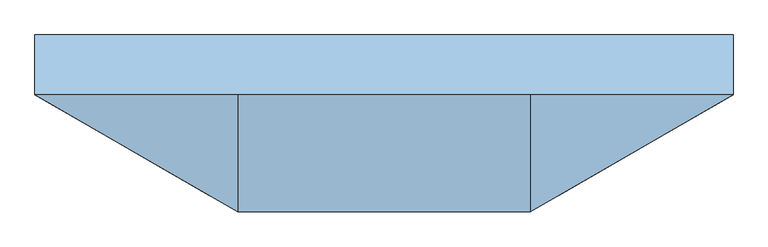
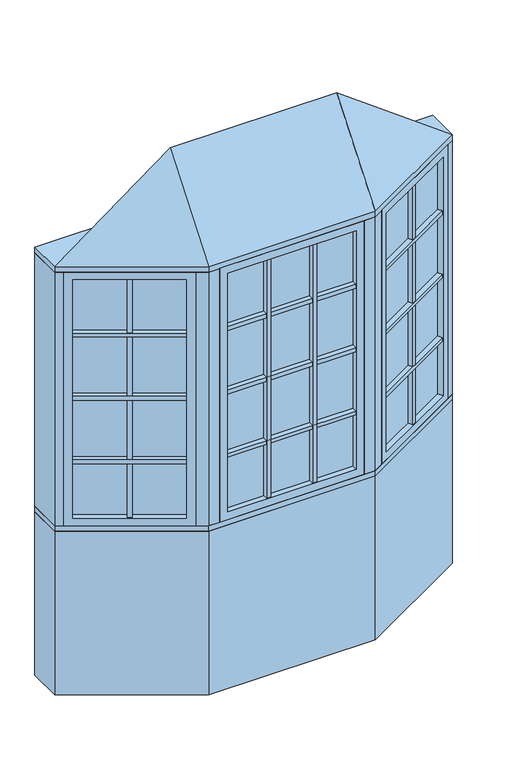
"""IFC4 building model written with IfcOpenShell, lengths in millimetres: window geometry, Pollard_Windows_Tudor Casement Bows and Bays : AML-BAY 30 AFR0512-08-500_GC."""

from ifc_helpers import new_model, si_unit, frame, origin, origin_with_axes, place, context, project, spatial, polyline, outline, extrude, faceted_brep, source, transform, mapped, element, save


def window_1d02490c(model_context):
    return source(origin(), model_context, "Body", "SolidModel", [
        extrude(outline(polyline([(445.7305346, -327.3537343), (434.7305346, -308.3011754), (815.6135794, -88.3982469), (826.6135794, -107.4508058), (445.7305346, -327.3537343)])), frame((0.0, 0.0, 1390.998), z_axis=(0.0, 0.0, 1.0), x_axis=(1.0, 0.0, 0.0)), (0.0, 0.0, 1.0), 18.0),
        extrude(outline(polyline([(432.1905346, -303.9017664), (421.1905346, -284.8492075), (802.0735794, -64.946279), (813.0735794, -83.9988379), (432.1905346, -303.9017664)])), frame((0.0, 0.0, 1390.998), z_axis=(0.0, 0.0, 1.0), x_axis=(1.0, 0.0, 0.0)), (0.0, 0.0, 1.0), 18.0),
        extrude(outline(polyline([(445.7305346, -327.3537343), (434.7305346, -308.3011754), (815.6135794, -88.3982469), (826.6135794, -107.4508058), (445.7305346, -327.3537343)])), frame((0.0, 0.0, 1090.998), z_axis=(0.0, 0.0, 1.0), x_axis=(1.0, 0.0, 0.0)), (0.0, 0.0, 1.0), 18.0),
        extrude(outline(polyline([(432.1905346, -303.9017664), (421.1905346, -284.8492075), (802.0735794, -64.946279), (813.0735794, -83.9988379), (432.1905346, -303.9017664)])), frame((0.0, 0.0, 1090.998), z_axis=(0.0, 0.0, 1.0), x_axis=(1.0, 0.0, 0.0)), (0.0, 0.0, 1.0), 18.0),
        extrude(outline(polyline([(445.7305346, -327.3537343), (434.7305346, -308.3011754), (815.6135794, -88.3982469), (826.6135794, -107.4508058), (445.7305346, -327.3537343)])), frame((0.0, 0.0, 1390.998), z_axis=(0.0, 0.0, 1.0), x_axis=(1.0, 0.0, 0.0)), (0.0, 0.0, 1.0), 18.0),
        extrude(outline(polyline([(432.1905346, -303.9017664), (421.1905346, -284.8492075), (802.0735794, -64.946279), (813.0735794, -83.9988379), (432.1905346, -303.9017664)])), frame((0.0, 0.0, 1390.998), z_axis=(0.0, 0.0, 1.0), x_axis=(1.0, 0.0, 0.0)), (0.0, 0.0, 1.0), 18.0),
        extrude(outline(polyline([(445.7305346, -327.3537343), (434.7305346, -308.3011754), (815.6135794, -88.3982469), (826.6135794, -107.4508058), (445.7305346, -327.3537343)])), frame((0.0, 0.0, 1390.998), z_axis=(0.0, 0.0, 1.0), x_axis=(1.0, 0.0, 0.0)), (0.0, 0.0, 1.0), 18.0),
        extrude(outline(polyline([(432.1905346, -303.9017664), (421.1905346, -284.8492075), (802.0735794, -64.946279), (813.0735794, -83.9988379), (432.1905346, -303.9017664)])), frame((0.0, 0.0, 1390.998), z_axis=(0.0, 0.0, 1.0), x_axis=(1.0, 0.0, 0.0)), (0.0, 0.0, 1.0), 18.0),
        extrude(outline(polyline([(445.7305346, -327.3537343), (434.7305346, -308.3011754), (815.6135794, -88.3982469), (826.6135794, -107.4508058), (445.7305346, -327.3537343)])), frame((0.0, 0.0, 1690.998), z_axis=(0.0, 0.0, 1.0), x_axis=(1.0, 0.0, 0.0)), (0.0, 0.0, 1.0), 18.0),
        extrude(outline(polyline([(432.1905346, -303.9017664), (421.1905346, -284.8492075), (802.0735794, -64.946279), (813.0735794, -83.9988379), (432.1905346, -303.9017664)])), frame((0.0, 0.0, 1690.998), z_axis=(0.0, 0.0, 1.0), x_axis=(1.0, 0.0, 0.0)), (0.0, 0.0, 1.0), 18.0),
        extrude(outline(polyline([(632.9662856, -193.8497112), (643.9662856, -212.9022701), (628.3778284, -221.9022701), (617.3778284, -202.8497112), (632.9662856, -193.8497112)])), frame((0.0, 0.0, 835.8628), z_axis=(0.0, 0.0, 1.0), x_axis=(1.0, 0.0, 0.0)), (0.0, 0.0, 1.0), 1128.2704),
        extrude(outline(polyline([(630.4262856, -189.4503021), (614.8378284, -198.4503021), (603.8378284, -179.3977432), (619.4262856, -170.3977432), (630.4262856, -189.4503021)])), frame((0.0, 0.0, 835.8628), z_axis=(0.0, 0.0, 1.0), x_axis=(1.0, 0.0, 0.0)), (0.0, 0.0, 1.0), 1128.2704),
        extrude(outline(polyline([(826.612102, -82.0482469), (423.7320119, -314.6511754), (421.1920119, -310.2517664), (824.072102, -77.6488379), (826.612102, -82.0482469)])), frame((0.0, 0.0, 823.1628), z_axis=(0.0, 0.0, 1.0), x_axis=(1.0, 0.0, 0.0)), (0.0, 0.0, 1.0), 1153.6704),
        faceted_brep([(815.6135794, -88.3982469, 835.8628), (828.3135794, -110.3952922, 835.8628), (828.3135794, -110.3952922, 1964.1332), (815.6135794, -88.3982469, 1964.1332), (824.072102, -77.6488379, 823.1628), (826.612102, -82.0482469, 823.1628), (826.612102, -82.0482469, 1976.8332), (824.072102, -77.6488379, 1976.8332), (800.3735794, -62.0017926, 835.8628), (813.0735794, -83.9988379, 835.8628), (813.0735794, -83.9988379, 1964.1332), (800.3735794, -62.0017926, 1964.1332), (859.3734073, -92.4628922, 799.998), (831.4334073, -44.0693926, 799.998), (831.4334073, -44.0693926, 1999.998), (859.3734073, -92.4628922, 1999.998), (447.4305346, -330.2982207, 1964.1332), (434.7305346, -308.3011754, 1964.1332), (423.7320119, -314.6511754, 1976.8332), (421.1920119, -310.2517664, 1976.8332), (432.1905346, -303.9017664, 1964.1332), (419.4905346, -281.9047211, 1964.1332), (388.4307067, -299.8371211, 1999.998), (416.3707067, -348.2306207, 1999.998), (447.4305346, -330.2982207, 835.8628), (434.7305346, -308.3011754, 835.8628), (423.7320119, -314.6511754, 823.1628), (421.1920119, -310.2517664, 823.1628), (432.1905346, -303.9017664, 835.8628), (419.4905346, -281.9047211, 835.8628), (388.4307067, -299.8371211, 799.998), (416.3707067, -348.2306207, 799.998)], [[[0, 1, 2, 3]], [[4, 5, 6, 7]], [[8, 9, 10, 11]], [[12, 13, 14, 15]], [[3, 2, 16, 17]], [[7, 6, 18, 19]], [[11, 10, 20, 21]], [[15, 14, 22, 23]], [[17, 16, 24, 25]], [[19, 18, 26, 27]], [[21, 20, 28, 29]], [[23, 22, 30, 31]], [[25, 24, 1, 0]], [[5, 26, 18, 6], [3, 17, 25, 0]], [[27, 26, 5, 4]], [[7, 19, 27, 4], [9, 28, 20, 10]], [[29, 28, 9, 8]], [[13, 30, 22, 14], [11, 21, 29, 8]], [[31, 30, 13, 12]], [[15, 23, 31, 12], [1, 24, 16, 2]]]),
        extrude(outline(polyline([(111.9683455, -347.8306207), (111.9683455, -369.8306207), (93.9683455, -369.8306207), (93.9683455, -347.8306207), (111.9683455, -347.8306207)])), frame((0.0, 0.0, 835.8628), z_axis=(0.0, 0.0, 1.0), x_axis=(1.0, 0.0, 0.0)), (0.0, 0.0, 1.0), 1128.2704),
        extrude(outline(polyline([(111.9683455, -342.7506207), (93.9683455, -342.7506207), (93.9683455, -320.7506207), (111.9683455, -320.7506207), (111.9683455, -342.7506207)])), frame((0.0, 0.0, 835.8628), z_axis=(0.0, 0.0, 1.0), x_axis=(1.0, 0.0, 0.0)), (0.0, 0.0, 1.0), 1128.2704),
        extrude(outline(polyline([(-93.9683455, -347.8306207), (-93.9683455, -369.8306207), (-111.9683455, -369.8306207), (-111.9683455, -347.8306207), (-93.9683455, -347.8306207)])), frame((0.0, 0.0, 835.8628), z_axis=(0.0, 0.0, 1.0), x_axis=(1.0, 0.0, 0.0)), (0.0, 0.0, 1.0), 1128.2704),
        extrude(outline(polyline([(-93.9683455, -342.7506207), (-111.9683455, -342.7506207), (-111.9683455, -320.7506207), (-93.9683455, -320.7506207), (-93.9683455, -342.7506207)])), frame((0.0, 0.0, 835.8628), z_axis=(0.0, 0.0, 1.0), x_axis=(1.0, 0.0, 0.0)), (0.0, 0.0, 1.0), 1128.2704),
        extrude(outline(polyline([(-287.2046365, -369.8306207), (-287.2046365, -347.8306207), (287.2046365, -347.8306207), (287.2046365, -369.8306207), (-287.2046365, -369.8306207)])), frame((0.0, 0.0, 1090.998), z_axis=(0.0, 0.0, 1.0), x_axis=(1.0, 0.0, 0.0)), (0.0, 0.0, 1.0), 18.0),
        extrude(outline(polyline([(-287.2046365, -342.7506207), (-287.2046365, -320.7506207), (287.2046365, -320.7506207), (287.2046365, -342.7506207), (-287.2046365, -342.7506207)])), frame((0.0, 0.0, 1090.998), z_axis=(0.0, 0.0, 1.0), x_axis=(1.0, 0.0, 0.0)), (0.0, 0.0, 1.0), 18.0),
        extrude(outline(polyline([(-287.2046365, -369.8306207), (-287.2046365, -347.8306207), (287.2046365, -347.8306207), (287.2046365, -369.8306207), (-287.2046365, -369.8306207)])), frame((0.0, 0.0, 1390.998), z_axis=(0.0, 0.0, 1.0), x_axis=(1.0, 0.0, 0.0)), (0.0, 0.0, 1.0), 18.0),
        extrude(outline(polyline([(-287.2046365, -342.7506207), (-287.2046365, -320.7506207), (287.2046365, -320.7506207), (287.2046365, -342.7506207), (-287.2046365, -342.7506207)])), frame((0.0, 0.0, 1390.998), z_axis=(0.0, 0.0, 1.0), x_axis=(1.0, 0.0, 0.0)), (0.0, 0.0, 1.0), 18.0),
        extrude(outline(polyline([(-287.2046365, -369.8306207), (-287.2046365, -347.8306207), (287.2046365, -347.8306207), (287.2046365, -369.8306207), (-287.2046365, -369.8306207)])), frame((0.0, 0.0, 1390.998), z_axis=(0.0, 0.0, 1.0), x_axis=(1.0, 0.0, 0.0)), (0.0, 0.0, 1.0), 18.0),
        extrude(outline(polyline([(-287.2046365, -342.7506207), (-287.2046365, -320.7506207), (287.2046365, -320.7506207), (287.2046365, -342.7506207), (-287.2046365, -342.7506207)])), frame((0.0, 0.0, 1390.998), z_axis=(0.0, 0.0, 1.0), x_axis=(1.0, 0.0, 0.0)), (0.0, 0.0, 1.0), 18.0),
        extrude(outline(polyline([(-287.2046365, -369.8306207), (-287.2046365, -347.8306207), (287.2046365, -347.8306207), (287.2046365, -369.8306207), (-287.2046365, -369.8306207)])), frame((0.0, 0.0, 1390.998), z_axis=(0.0, 0.0, 1.0), x_axis=(1.0, 0.0, 0.0)), (0.0, 0.0, 1.0), 18.0),
        extrude(outline(polyline([(-287.2046365, -342.7506207), (-287.2046365, -320.7506207), (287.2046365, -320.7506207), (287.2046365, -342.7506207), (-287.2046365, -342.7506207)])), frame((0.0, 0.0, 1390.998), z_axis=(0.0, 0.0, 1.0), x_axis=(1.0, 0.0, 0.0)), (0.0, 0.0, 1.0), 18.0),
        extrude(outline(polyline([(-826.6135794, -107.4508058), (-815.6135794, -88.3982469), (-434.7305346, -308.3011754), (-445.7305346, -327.3537343), (-826.6135794, -107.4508058)])), frame((0.0, 0.0, 1090.998), z_axis=(0.0, 0.0, 1.0), x_axis=(1.0, 0.0, 0.0)), (0.0, 0.0, 1.0), 18.0),
        extrude(outline(polyline([(-813.0735794, -83.9988379), (-802.0735794, -64.946279), (-421.1905346, -284.8492075), (-432.1905346, -303.9017664), (-813.0735794, -83.9988379)])), frame((0.0, 0.0, 1090.998), z_axis=(0.0, 0.0, 1.0), x_axis=(1.0, 0.0, 0.0)), (0.0, 0.0, 1.0), 18.0),
        extrude(outline(polyline([(-826.6135794, -107.4508058), (-815.6135794, -88.3982469), (-434.7305346, -308.3011754), (-445.7305346, -327.3537343), (-826.6135794, -107.4508058)])), frame((0.0, 0.0, 1390.998), z_axis=(0.0, 0.0, 1.0), x_axis=(1.0, 0.0, 0.0)), (0.0, 0.0, 1.0), 18.0),
        extrude(outline(polyline([(-813.0735794, -83.9988379), (-802.0735794, -64.946279), (-421.1905346, -284.8492075), (-432.1905346, -303.9017664), (-813.0735794, -83.9988379)])), frame((0.0, 0.0, 1390.998), z_axis=(0.0, 0.0, 1.0), x_axis=(1.0, 0.0, 0.0)), (0.0, 0.0, 1.0), 18.0),
        extrude(outline(polyline([(-826.6135794, -107.4508058), (-815.6135794, -88.3982469), (-434.7305346, -308.3011754), (-445.7305346, -327.3537343), (-826.6135794, -107.4508058)])), frame((0.0, 0.0, 1390.998), z_axis=(0.0, 0.0, 1.0), x_axis=(1.0, 0.0, 0.0)), (0.0, 0.0, 1.0), 18.0),
        extrude(outline(polyline([(-813.0735794, -83.9988379), (-802.0735794, -64.946279), (-421.1905346, -284.8492075), (-432.1905346, -303.9017664), (-813.0735794, -83.9988379)])), frame((0.0, 0.0, 1390.998), z_axis=(0.0, 0.0, 1.0), x_axis=(1.0, 0.0, 0.0)), (0.0, 0.0, 1.0), 18.0),
        extrude(outline(polyline([(-826.6135794, -107.4508058), (-815.6135794, -88.3982469), (-434.7305346, -308.3011754), (-445.7305346, -327.3537343), (-826.6135794, -107.4508058)])), frame((0.0, 0.0, 1390.998), z_axis=(0.0, 0.0, 1.0), x_axis=(1.0, 0.0, 0.0)), (0.0, 0.0, 1.0), 18.0),
        extrude(outline(polyline([(-813.0735794, -83.9988379), (-802.0735794, -64.946279), (-421.1905346, -284.8492075), (-432.1905346, -303.9017664), (-813.0735794, -83.9988379)])), frame((0.0, 0.0, 1390.998), z_axis=(0.0, 0.0, 1.0), x_axis=(1.0, 0.0, 0.0)), (0.0, 0.0, 1.0), 18.0),
        extrude(outline(polyline([(-826.6135794, -107.4508058), (-815.6135794, -88.3982469), (-434.7305346, -308.3011754), (-445.7305346, -327.3537343), (-826.6135794, -107.4508058)])), frame((0.0, 0.0, 1690.998), z_axis=(0.0, 0.0, 1.0), x_axis=(1.0, 0.0, 0.0)), (0.0, 0.0, 1.0), 18.0),
        extrude(outline(polyline([(-813.0735794, -83.9988379), (-802.0735794, -64.946279), (-421.1905346, -284.8492075), (-432.1905346, -303.9017664), (-813.0735794, -83.9988379)])), frame((0.0, 0.0, 1690.998), z_axis=(0.0, 0.0, 1.0), x_axis=(1.0, 0.0, 0.0)), (0.0, 0.0, 1.0), 18.0),
        extrude(outline(polyline([(-287.2046365, -369.8306207), (-287.2046365, -347.8306207), (287.2046365, -347.8306207), (287.2046365, -369.8306207), (-287.2046365, -369.8306207)])), frame((0.0, 0.0, 1690.998), z_axis=(0.0, 0.0, 1.0), x_axis=(1.0, 0.0, 0.0)), (0.0, 0.0, 1.0), 18.0),
        extrude(outline(polyline([(-287.2046365, -342.7506207), (-287.2046365, -320.7506207), (287.2046365, -320.7506207), (287.2046365, -342.7506207), (-287.2046365, -342.7506207)])), frame((0.0, 0.0, 1690.998), z_axis=(0.0, 0.0, 1.0), x_axis=(1.0, 0.0, 0.0)), (0.0, 0.0, 1.0), 18.0),
        extrude(outline(polyline([(-617.3778284, -202.8497112), (-628.3778284, -221.9022701), (-643.9662856, -212.9022701), (-632.9662856, -193.8497112), (-617.3778284, -202.8497112)])), frame((0.0, 0.0, 835.8628), z_axis=(0.0, 0.0, 1.0), x_axis=(1.0, 0.0, 0.0)), (0.0, 0.0, 1.0), 1128.2704),
        extrude(outline(polyline([(-614.8378284, -198.4503021), (-630.4262856, -189.4503021), (-619.4262856, -170.3977432), (-603.8378284, -179.3977432), (-614.8378284, -198.4503021)])), frame((0.0, 0.0, 835.8628), z_axis=(0.0, 0.0, 1.0), x_axis=(1.0, 0.0, 0.0)), (0.0, 0.0, 1.0), 1128.2704),
        extrude(outline(polyline([(-423.7320119, -314.6511754), (-826.612102, -82.0482469), (-824.072102, -77.6488379), (-421.1920119, -310.2517664), (-423.7320119, -314.6511754)])), frame((0.0, 0.0, 823.1628), z_axis=(0.0, 0.0, 1.0), x_axis=(1.0, 0.0, 0.0)), (0.0, 0.0, 1.0), 1153.6704),
        faceted_brep([(-432.1905346, -303.9017664, 1964.1332), (-419.4905346, -281.9047211, 1964.1332), (-419.4905346, -281.9047211, 835.8628), (-432.1905346, -303.9017664, 835.8628), (-423.7320119, -314.6511754, 1976.8332), (-421.1920119, -310.2517664, 1976.8332), (-421.1920119, -310.2517664, 823.1628), (-423.7320119, -314.6511754, 823.1628), (-447.4305346, -330.2982207, 1964.1332), (-434.7305346, -308.3011754, 1964.1332), (-434.7305346, -308.3011754, 835.8628), (-447.4305346, -330.2982207, 835.8628), (-388.4307067, -299.8371211, 1999.998), (-416.3707067, -348.2306207, 1999.998), (-416.3707067, -348.2306207, 799.998), (-388.4307067, -299.8371211, 799.998), (-800.3735794, -62.0017926, 835.8628), (-813.0735794, -83.9988379, 835.8628), (-824.072102, -77.6488379, 823.1628), (-826.612102, -82.0482469, 823.1628), (-815.6135794, -88.3982469, 835.8628), (-828.3135794, -110.3952922, 835.8628), (-859.3734073, -92.4628922, 799.998), (-831.4334073, -44.0693926, 799.998), (-800.3735794, -62.0017926, 1964.1332), (-813.0735794, -83.9988379, 1964.1332), (-824.072102, -77.6488379, 1976.8332), (-826.612102, -82.0482469, 1976.8332), (-815.6135794, -88.3982469, 1964.1332), (-828.3135794, -110.3952922, 1964.1332), (-859.3734073, -92.4628922, 1999.998), (-831.4334073, -44.0693926, 1999.998)], [[[0, 1, 2, 3]], [[4, 5, 6, 7]], [[8, 9, 10, 11]], [[12, 13, 14, 15]], [[3, 2, 16, 17]], [[7, 6, 18, 19]], [[11, 10, 20, 21]], [[15, 14, 22, 23]], [[17, 16, 24, 25]], [[19, 18, 26, 27]], [[21, 20, 28, 29]], [[23, 22, 30, 31]], [[15, 23, 31, 12], [1, 24, 16, 2]], [[25, 24, 1, 0]], [[5, 26, 18, 6], [3, 17, 25, 0]], [[27, 26, 5, 4]], [[7, 19, 27, 4], [9, 28, 20, 10]], [[29, 28, 9, 8]], [[13, 30, 22, 14], [11, 21, 29, 8]], [[31, 30, 13, 12]]]),
        extrude(outline(polyline([(299.9046365, -347.8306207), (-299.9046365, -347.8306207), (-299.9046365, -342.7506207), (299.9046365, -342.7506207), (299.9046365, -347.8306207)])), frame((0.0, 0.0, 823.1628), z_axis=(0.0, 0.0, 1.0), x_axis=(1.0, 0.0, 0.0)), (0.0, 0.0, 1.0), 1153.6704),
        faceted_brep([(287.2046365, -347.8306207, 835.8628), (287.2046365, -373.2306207, 835.8628), (287.2046365, -373.2306207, 1964.1332), (287.2046365, -347.8306207, 1964.1332), (299.9046365, -342.7506207, 823.1628), (299.9046365, -347.8306207, 823.1628), (299.9046365, -347.8306207, 1976.8332), (299.9046365, -342.7506207, 1976.8332), (287.2046365, -317.3506207, 835.8628), (287.2046365, -342.7506207, 835.8628), (287.2046365, -342.7506207, 1964.1332), (287.2046365, -317.3506207, 1964.1332), (323.0694365, -373.2306207, 799.998), (323.0694365, -317.3506207, 799.998), (323.0694365, -317.3506207, 1999.998), (323.0694365, -373.2306207, 1999.998), (-287.2046365, -373.2306207, 1964.1332), (-287.2046365, -347.8306207, 1964.1332), (-299.9046365, -347.8306207, 1976.8332), (-299.9046365, -342.7506207, 1976.8332), (-287.2046365, -342.7506207, 1964.1332), (-287.2046365, -317.3506207, 1964.1332), (-323.0694365, -317.3506207, 1999.998), (-323.0694365, -373.2306207, 1999.998), (-287.2046365, -373.2306207, 835.8628), (-287.2046365, -347.8306207, 835.8628), (-299.9046365, -347.8306207, 823.1628), (-299.9046365, -342.7506207, 823.1628), (-287.2046365, -342.7506207, 835.8628), (-287.2046365, -317.3506207, 835.8628), (-323.0694365, -317.3506207, 799.998), (-323.0694365, -373.2306207, 799.998)], [[[0, 1, 2, 3]], [[4, 5, 6, 7]], [[8, 9, 10, 11]], [[12, 13, 14, 15]], [[3, 2, 16, 17]], [[7, 6, 18, 19]], [[11, 10, 20, 21]], [[15, 14, 22, 23]], [[17, 16, 24, 25]], [[19, 18, 26, 27]], [[21, 20, 28, 29]], [[23, 22, 30, 31]], [[15, 23, 31, 12], [1, 24, 16, 2]], [[25, 24, 1, 0]], [[5, 26, 18, 6], [3, 17, 25, 0]], [[27, 26, 5, 4]], [[7, 19, 27, 4], [9, 28, 20, 10]], [[29, 28, 9, 8]], [[13, 30, 22, 14], [11, 21, 29, 8]], [[31, 30, 13, 12]]]),
        faceted_brep([(890.0, -74.7806207, 2025.398), (373.0694365, -373.2306207, 2025.398), (-373.0694365, -373.2306207, 2025.398), (-890.0, -74.7806207, 2025.398), (-373.0694365, -74.7806207, 2406.398), (373.0694365, -74.7806207, 2406.398)], [[[0, 1, 2, 3]], [[3, 2, 4]], [[2, 1, 5, 4]], [[1, 0, 5]], [[0, 3, 4, 5]]]),
        extrude(outline(polyline([(-890.0, 77.6193793), (890.0, 77.6193793), (890.0, -74.7806207), (373.0694365, -373.2306207), (-373.0694365, -373.2306207), (-890.0, -74.7806207), (-890.0, 77.6193793)])), frame((0.0, 0.0, 1999.998), z_axis=(0.0, 0.0, 1.0), x_axis=(1.0, 0.0, 0.0)), (0.0, 0.0, 1.0), 25.4),
        extrude(outline(polyline([(-890.0, -74.7806207), (-890.0, 77.6193793), (-849.1645431, 77.6193793), (-849.1645431, -74.7806207), (-859.3734073, -92.4628922), (-890.0, -74.7806207)])), frame((0.0, 0.0, 799.998), z_axis=(0.0, 0.0, 1.0), x_axis=(1.0, 0.0, 0.0)), (0.0, 0.0, 1.0), 1200.0),
        extrude(outline(polyline([(890.0, 77.6193793), (890.0, -74.7806207), (859.3734073, -92.4628922), (849.1645431, -74.7806207), (849.1645431, 77.6193793), (890.0, 77.6193793)])), frame((0.0, 0.0, 799.998), z_axis=(0.0, 0.0, 1.0), x_axis=(1.0, 0.0, 0.0)), (0.0, 0.0, 1.0), 1200.0),
        extrude(outline(polyline([(373.0694365, -373.2306207), (323.0694365, -373.2306207), (323.0694365, -323.2306207), (359.6719769, -323.2306207), (391.3707067, -304.9293505), (416.3707067, -348.2306207), (373.0694365, -373.2306207)])), frame((0.0, 0.0, 799.998), z_axis=(0.0, 0.0, 1.0), x_axis=(1.0, 0.0, 0.0)), (0.0, 0.0, 1.0), 1200.0),
        extrude(outline(polyline([(-373.0694365, -373.2306207), (-416.3707067, -348.2306207), (-391.3707067, -304.9293505), (-359.6719769, -323.2306207), (-323.0694365, -323.2306207), (-323.0694365, -373.2306207), (-373.0694365, -373.2306207)])), frame((0.0, 0.0, 799.998), z_axis=(0.0, 0.0, 1.0), x_axis=(1.0, 0.0, 0.0)), (0.0, 0.0, 1.0), 1200.0),
        extrude(outline(polyline([(-373.0694365, -373.2306207), (-890.0, -74.7806207), (-890.0, 77.6193793), (-849.1645431, 77.6193793), (-332.2339796, -220.8306207), (332.2339796, -220.8306207), (849.1645431, 77.6193793), (890.0, 77.6193793), (890.0, -74.7806207), (373.0694365, -373.2306207), (-373.0694365, -373.2306207)])), frame((0.0, 0.0, 774.598), z_axis=(0.0, 0.0, 1.0), x_axis=(1.0, 0.0, 0.0)), (0.0, 0.0, 1.0), 25.4),
        extrude(outline(polyline([(-890.0, -74.7806207), (-890.0, 77.6193793), (-849.1645431, 77.6193793), (-332.2339796, -220.8306207), (332.2339796, -220.8306207), (849.1645431, 77.6193793), (890.0, 77.6193793), (890.0, -74.7806207), (373.0694365, -373.2306207), (-373.0694365, -373.2306207), (-890.0, -74.7806207)])), origin_with_axes(), (0.0, 0.0, 1.0), 774.598),
    ])


if __name__ == "__main__":
    model = new_model("IFC4")
    model_context = context("Model", 3, world=origin())
    ifc_project = project(units=[si_unit("LENGTHUNIT", "METRE", prefix="MILLI")], contexts=[model_context])
    site = spatial("IfcSite", under=ifc_project)
    building = spatial("IfcBuilding", under=site)
    placement = place(None, origin())
    window_shape = window_1d02490c(model_context)
    element("IfcWindow", 1, ObjectType="Pollard_Windows_Tudor Casement Bows and Bays : AML-BAY 30 AFR0512-08-500_GC", at=placement, inside=building, context=model_context, shape_type="MappedRepresentation", body=[
        mapped(window_shape, transform((0.0, 0.0, 0.0), x_axis=(1.0, 0.0, 0.0), y_axis=(0.0, 1.0, 0.0), z_axis=(0.0, 0.0, 1.0))),
    ])
    save(model, "model.ifc")
